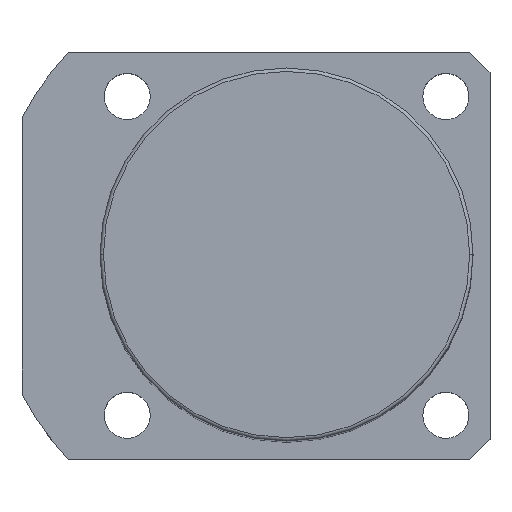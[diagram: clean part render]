
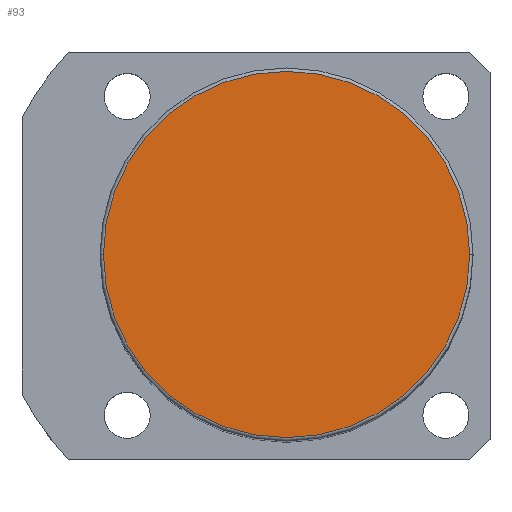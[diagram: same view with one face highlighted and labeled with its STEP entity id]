
A CAD part, top view. The second image highlights one B-rep face of the part: STEP entity #93.
In plain terms, the highlighted planar face has unit normal (0, 0, 1).
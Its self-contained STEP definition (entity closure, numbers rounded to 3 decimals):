
#93 = ADVANCED_FACE ( 'NONE', ( #167 ), #411, .T. ) ;
#121 = EDGE_CURVE ( 'NONE', #1310, #354, #791, .T. ) ;
#167 = FACE_OUTER_BOUND ( 'NONE', #1455, .T. ) ;
#244 = DIRECTION ( 'NONE',  ( 0., 0., 1. ) ) ;
#267 = DIRECTION ( 'NONE',  ( 0., 0., 1. ) ) ;
#282 = DIRECTION ( 'NONE',  ( 0., 0., 1. ) ) ;
#337 = EDGE_CURVE ( 'NONE', #354, #1310, #684, .T. ) ;
#354 = VERTEX_POINT ( 'NONE', #1742 ) ;
#399 = CARTESIAN_POINT ( 'NONE',  ( 0., 0., 126. ) ) ;
#411 = PLANE ( 'NONE',  #979 ) ;
#437 = CARTESIAN_POINT ( 'NONE',  ( 27., 0., 126. ) ) ;
#449 = AXIS2_PLACEMENT_3D ( 'NONE', #1126, #282, #765 ) ;
#523 = AXIS2_PLACEMENT_3D ( 'NONE', #953, #267, #1239 ) ;
#684 = CIRCLE ( 'NONE', #523, 27. ) ;
#765 = DIRECTION ( 'NONE',  ( 1., 0., 0. ) ) ;
#791 = CIRCLE ( 'NONE', #449, 27. ) ;
#814 = DIRECTION ( 'NONE',  ( 1., 0., 0. ) ) ;
#894 = ORIENTED_EDGE ( 'NONE', *, *, #121, .T. ) ;
#953 = CARTESIAN_POINT ( 'NONE',  ( 0., 0., 126. ) ) ;
#979 = AXIS2_PLACEMENT_3D ( 'NONE', #399, #244, #814 ) ;
#1009 = ORIENTED_EDGE ( 'NONE', *, *, #337, .T. ) ;
#1126 = CARTESIAN_POINT ( 'NONE',  ( 0., 0., 126. ) ) ;
#1239 = DIRECTION ( 'NONE',  ( 1., 0., 0. ) ) ;
#1310 = VERTEX_POINT ( 'NONE', #437 ) ;
#1455 = EDGE_LOOP ( 'NONE', ( #894, #1009 ) ) ;
#1742 = CARTESIAN_POINT ( 'NONE',  ( -27., 0., 126. ) ) ;
